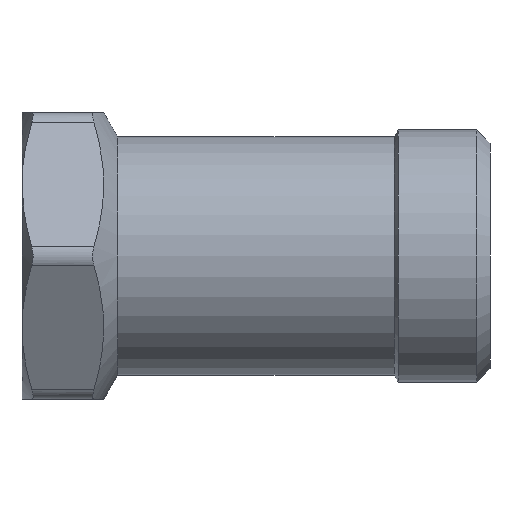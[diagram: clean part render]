
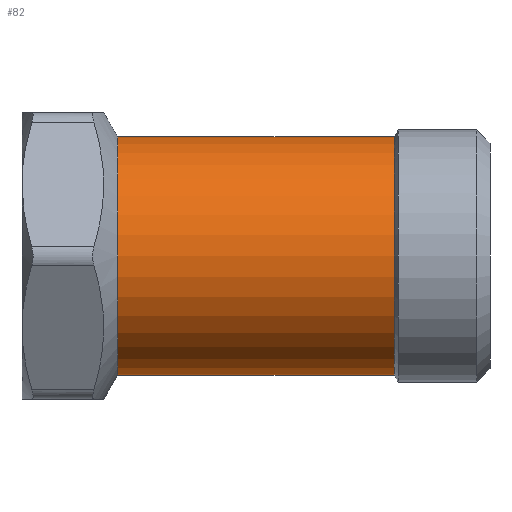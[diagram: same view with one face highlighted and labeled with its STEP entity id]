
A CAD part, front view. The second image highlights one B-rep face of the part: STEP entity #82.
In plain terms, the highlighted cylindrical face has radius 12.5 mm (diameter 25 mm), a full revolution.
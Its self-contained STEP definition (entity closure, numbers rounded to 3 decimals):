
#82=ADVANCED_FACE('',(#345,#347),#349,.T.);
#345=FACE_OUTER_BOUND('',#346,.T.);
#346=EDGE_LOOP('',(#880));
#347=FACE_OUTER_BOUND('',#348,.T.);
#348=EDGE_LOOP('',(#881));
#349=CYLINDRICAL_SURFACE('',#350,12.5);
#350=AXIS2_PLACEMENT_3D('',#351,#352,#353);
#351=CARTESIAN_POINT('',(0.,0.,0.));
#352=DIRECTION('',(1.,0.,0.));
#353=DIRECTION('',(0.,0.,-1.));
#880=ORIENTED_EDGE('',*,*,#943,.T.);
#881=ORIENTED_EDGE('',*,*,#942,.T.);
#942=EDGE_CURVE('',#1039,#1039,#1040,.T.);
#943=EDGE_CURVE('',#1041,#1041,#1042,.F.);
#1039=VERTEX_POINT('',#2160);
#1040=CIRCLE('',#2161,12.5);
#1041=VERTEX_POINT('',#2165);
#1042=CIRCLE('',#2166,12.5);
#2160=CARTESIAN_POINT('',(10.,0.,-12.5));
#2161=AXIS2_PLACEMENT_3D('',#2162,#2163,#2164);
#2162=CARTESIAN_POINT('',(10.,0.,0.));
#2163=DIRECTION('',(1.,0.,0.));
#2164=DIRECTION('',(0.,0.,-1.));
#2165=CARTESIAN_POINT('',(38.988,0.,-12.5));
#2166=AXIS2_PLACEMENT_3D('',#2167,#2168,#2169);
#2167=CARTESIAN_POINT('',(38.988,0.,0.));
#2168=DIRECTION('',(1.,0.,0.));
#2169=DIRECTION('',(0.,0.,-1.));
